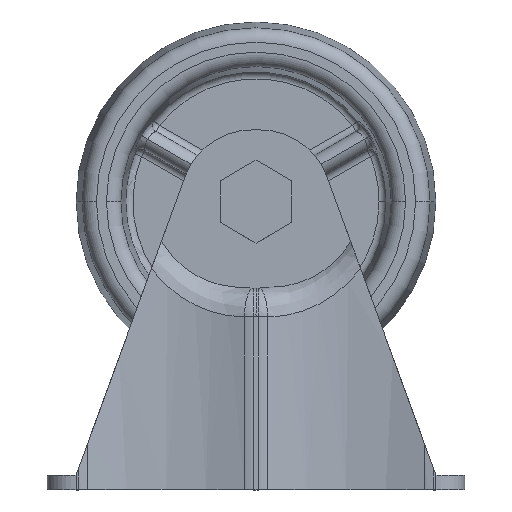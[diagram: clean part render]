
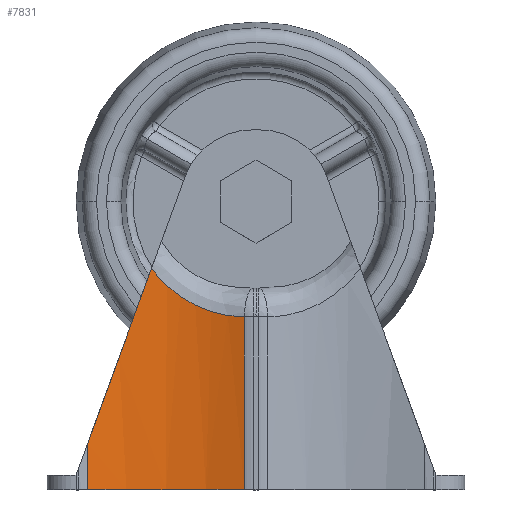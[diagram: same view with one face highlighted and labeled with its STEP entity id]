
A CAD part, top view. The second image highlights one B-rep face of the part: STEP entity #7831.
In plain terms, the highlighted cylindrical face has radius 34.004 mm (diameter 68.007 mm), a partial arc.
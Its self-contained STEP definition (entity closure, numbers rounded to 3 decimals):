
#189 = CARTESIAN_POINT ( 'NONE',  ( 20.527, 14.269, -19.319 ) ) ;
#190 = ORIENTED_EDGE ( 'NONE', *, *, #11611, .T. ) ;
#195 = EDGE_CURVE ( 'NONE', #7210, #14075, #3518, .T. ) ;
#426 = CARTESIAN_POINT ( 'NONE',  ( 12.5, 50., -52.5 ) ) ;
#583 = VERTEX_POINT ( 'NONE', #7530 ) ;
#1487 = CARTESIAN_POINT ( 'NONE',  ( 8.208, 25.495, -18.764 ) ) ;
#2687 = CARTESIAN_POINT ( 'NONE',  ( 5.543, 24.522, -19.214 ) ) ;
#2967 = VECTOR ( 'NONE', #14748, 1000. ) ;
#3518 =( BOUNDED_CURVE ( )  B_SPLINE_CURVE ( 3, ( #14118, #189, #9223, #3853 ),
 .UNSPECIFIED., .F., .T. ) 
 B_SPLINE_CURVE_WITH_KNOTS ( ( 4, 4 ),
 ( 1.245, 1.511 ),
 .UNSPECIFIED. ) 
 CURVE ( )  GEOMETRIC_REPRESENTATION_ITEM ( )  RATIONAL_B_SPLINE_CURVE ( ( 1., 0.994, 0.994, 1. ) ) 
 REPRESENTATION_ITEM ( '' )  );
#3535 = CARTESIAN_POINT ( 'NONE',  ( 11.429, 27.508, -18.51 ) ) ;
#3602 = CARTESIAN_POINT ( 'NONE',  ( 6.745, 24.898, -18.985 ) ) ;
#3664 = CARTESIAN_POINT ( 'NONE',  ( 13.757, 29.688, -18.511 ) ) ;
#3853 = CARTESIAN_POINT ( 'NONE',  ( 14.532, 30.711, -18.557 ) ) ;
#3925 = AXIS2_PLACEMENT_3D ( 'NONE', #426, #8717, #13317 ) ;
#3986 = CARTESIAN_POINT ( 'NONE',  ( 12.5, 0., -52.5 ) ) ;
#4333 = ORIENTED_EDGE ( 'NONE', *, *, #12801, .T. ) ;
#4361 = CARTESIAN_POINT ( 'NONE',  ( 1.605, 23.997, -20.289 ) ) ;
#4547 = LINE ( 'NONE', #12618, #2967 ) ;
#4719 = CARTESIAN_POINT ( 'NONE',  ( 6.445, 24.794, -19.038 ) ) ;
#5716 = EDGE_CURVE ( 'NONE', #13785, #583, #4547, .T. ) ;
#5802 = CARTESIAN_POINT ( 'NONE',  ( 2.823, 24.001, -19.877 ) ) ;
#5882 = CARTESIAN_POINT ( 'NONE',  ( 14.532, 30.711, -18.557 ) ) ;
#6106 = CARTESIAN_POINT ( 'NONE',  ( 7.633, 25.235, -18.841 ) ) ;
#6540 = ORIENTED_EDGE ( 'NONE', *, *, #5716, .F. ) ;
#7186 = CARTESIAN_POINT ( 'NONE',  ( 23.395, 50., -20.289 ) ) ;
#7210 = VERTEX_POINT ( 'NONE', #13929 ) ;
#7260 = EDGE_CURVE ( 'NONE', #13785, #14075, #10452, .T. ) ;
#7530 = CARTESIAN_POINT ( 'NONE',  ( 1.605, 0., -20.289 ) ) ;
#7788 = VERTEX_POINT ( 'NONE', #12104 ) ;
#7831 = ADVANCED_FACE ( 'NONE', ( #14291 ), #9833, .F. ) ;
#8262 = DIRECTION ( 'NONE',  ( 0., -1., 0. ) ) ;
#8717 = DIRECTION ( 'NONE',  ( 0., -1., 0. ) ) ;
#8749 = DIRECTION ( 'NONE',  ( 0., -1., 0. ) ) ;
#9190 = CARTESIAN_POINT ( 'NONE',  ( 9.867, 26.403, -18.594 ) ) ;
#9223 = CARTESIAN_POINT ( 'NONE',  ( 17.555, 22.42, -18.738 ) ) ;
#9471 = CARTESIAN_POINT ( 'NONE',  ( 4.037, 24.149, -19.543 ) ) ;
#9713 = ORIENTED_EDGE ( 'NONE', *, *, #195, .F. ) ;
#9833 = CYLINDRICAL_SURFACE ( 'NONE', #3925, 34.004 ) ;
#10104 = ORIENTED_EDGE ( 'NONE', *, *, #7260, .T. ) ;
#10308 = CARTESIAN_POINT ( 'NONE',  ( 14.532, 30.711, -18.557 ) ) ;
#10452 = B_SPLINE_CURVE_WITH_KNOTS ( 'NONE', 3,
 ( #10679, #5802, #9471, #2687, #11728, #4719, #3602, #6106, #1487, #13792, #9190, #14081, #3535, #10517, #3664, #5882 ),
 .UNSPECIFIED., .F., .F.,
 ( 4, 2, 2, 2, 2, 2, 2, 4 ),
 ( 0., 0.004, 0.005, 0.006, 0.008, 0.009, 0.011, 0.015 ),
 .UNSPECIFIED. ) ;
#10517 = CARTESIAN_POINT ( 'NONE',  ( 12.886, 28.758, -18.485 ) ) ;
#10679 = CARTESIAN_POINT ( 'NONE',  ( 1.605, 23.997, -20.289 ) ) ;
#11002 = DIRECTION ( 'NONE',  ( 0., 0., -1. ) ) ;
#11611 = EDGE_CURVE ( 'NONE', #7210, #7788, #13978, .T. ) ;
#11728 = CARTESIAN_POINT ( 'NONE',  ( 5.844, 24.606, -19.153 ) ) ;
#11851 = VECTOR ( 'NONE', #8262, 1000. ) ;
#12104 = CARTESIAN_POINT ( 'NONE',  ( 23.395, 0., -20.289 ) ) ;
#12618 = CARTESIAN_POINT ( 'NONE',  ( 1.605, 50., -20.289 ) ) ;
#12801 = EDGE_CURVE ( 'NONE', #7788, #583, #13129, .T. ) ;
#13129 = CIRCLE ( 'NONE', #14099, 34.004 ) ;
#13312 = EDGE_LOOP ( 'NONE', ( #6540, #10104, #9713, #190, #4333 ) ) ;
#13317 = DIRECTION ( 'NONE',  ( 0., 0., -1. ) ) ;
#13785 = VERTEX_POINT ( 'NONE', #4361 ) ;
#13792 = CARTESIAN_POINT ( 'NONE',  ( 9.325, 26.078, -18.64 ) ) ;
#13929 = CARTESIAN_POINT ( 'NONE',  ( 23.395, 6.401, -20.289 ) ) ;
#13978 = LINE ( 'NONE', #7186, #11851 ) ;
#14075 = VERTEX_POINT ( 'NONE', #10308 ) ;
#14081 = CARTESIAN_POINT ( 'NONE',  ( 10.918, 27.116, -18.529 ) ) ;
#14099 = AXIS2_PLACEMENT_3D ( 'NONE', #3986, #8749, #11002 ) ;
#14118 = CARTESIAN_POINT ( 'NONE',  ( 23.395, 6.401, -20.289 ) ) ;
#14291 = FACE_OUTER_BOUND ( 'NONE', #13312, .T. ) ;
#14748 = DIRECTION ( 'NONE',  ( 0., -1., 0. ) ) ;
